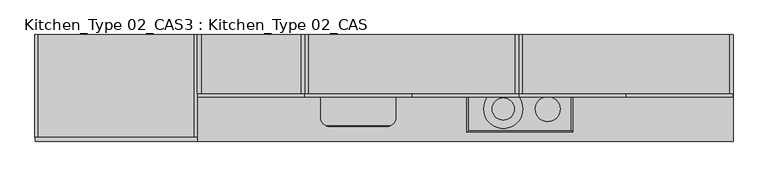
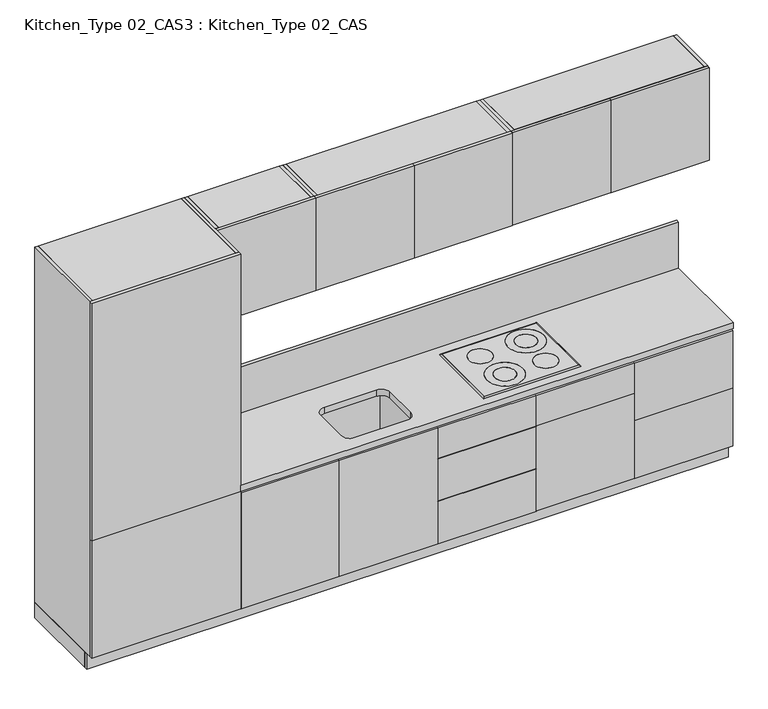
"""IFC4 building model written with IfcOpenShell, lengths in millimetres: furniture geometry, Kitchen_Type 02_CAS3 : Kitchen_Type 02_CAS."""

from ifc_helpers import new_model, si_unit, point, frame, frame_2d, origin, origin_with_axes, place, context, project, spatial, polyline, circle_curve, ellipse_curve, trimmed, segment, composite_curve, outline, extrude, source, transform, mapped, element, save
from ifc_brep_helpers import plane_surface, cylinder_surface, advanced_brep


def kitchen_type_02_cas3_kitchen_type_02_cas_05b7dcd0(model_context):
    return source(origin(), model_context, "Body", "SolidModel", [
        advanced_brep(
        [(3018.8951127, 480.560876, 908.0), (3026.8951127, 488.560876, 900.0), (2430.8951127, 488.560876, 900.0), (2438.8951127, 480.560876, 908.0), (3018.8951127, 480.560876, 900.0), (2438.8951127, 480.560876, 900.0), (2430.8951127, 22.560876, 900.0), (2438.8951127, 30.560876, 908.0), (2438.8951127, 30.560876, 900.0), (3026.8951127, 22.560876, 900.0), (3018.8951127, 30.560876, 908.0), (3018.8951127, 30.560876, 900.0)],
        [
            (0, 1, ellipse_curve(frame((3018.8951127, 480.560876, 900.0), z_axis=(-0.707106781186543, 0.7071067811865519, 0.0), x_axis=(0.7071067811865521, 0.707106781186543, 0.0)), 11.3137085, 8.0)),
            (1, 2),
            (2, 3, ellipse_curve(frame((2438.8951127, 480.560876, 900.0), z_axis=(0.7071067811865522, 0.7071067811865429, 0.0), x_axis=(0.7071067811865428, -0.7071067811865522, 0.0)), 11.3137085, 8.0)),
            (3, 0),
            (4, 0),
            (3, 5),
            (5, 4),
            (2, 6),
            (6, 7, ellipse_curve(frame((2438.8951127, 30.560876, 900.0), z_axis=(-0.7071067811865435, 0.7071067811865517, 0.0), x_axis=(0.7071067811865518, 0.7071067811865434, 0.0)), 11.3137085, 8.0)),
            (7, 3),
            (7, 8),
            (8, 5),
            (6, 9),
            (9, 10, ellipse_curve(frame((3018.8951127, 30.560876, 900.0), z_axis=(-0.7071067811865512, -0.7071067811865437, 0.0), x_axis=(-0.7071067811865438, 0.7071067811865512, 0.0)), 11.3137085, 8.0)),
            (10, 7),
            (10, 11),
            (11, 8),
            (1, 9),
            (11, 4),
            (0, 10),
        ],
        [
            cylinder_surface(frame((3018.8951127, 480.560876, 900.0), z_axis=(1.0, 0.0, 0.0), x_axis=(0.0, 1.0, 0.0)), 8.0),
            plane_surface(frame((3018.8951127, 480.560876, 908.0), z_axis=(0.0, -1.0, 0.0), x_axis=(-1.0, 0.0, 0.0))),
            cylinder_surface(frame((2438.8951127, 480.560876, 900.0), z_axis=(0.0, 1.0, 0.0), x_axis=(-1.0, 0.0, 0.0)), 8.0),
            plane_surface(frame((2438.8951127, 480.560876, 908.0), z_axis=(1.0, 0.0, 0.0), x_axis=(0.0, -1.0, 0.0))),
            cylinder_surface(frame((2438.8951127, 30.560876, 900.0), z_axis=(-1.0, 0.0, 0.0), x_axis=(0.0, -1.0, 0.0)), 8.0),
            plane_surface(frame((2438.8951127, 30.560876, 908.0), z_axis=(0.0, 1.0, 0.0), x_axis=(1.0, 0.0, 0.0))),
            plane_surface(frame((3018.8951127, 30.560876, 900.0), z_axis=(0.0, 0.0, -1.0), x_axis=(0.0, 1.0, 0.0))),
            cylinder_surface(frame((3018.8951127, 30.560876, 900.0), z_axis=(0.0, -1.0, 0.0), x_axis=(1.0, 0.0, 0.0)), 8.0),
            plane_surface(frame((3018.8951127, 30.560876, 908.0), z_axis=(-1.0, 0.0, 0.0), x_axis=(0.0, 1.0, 0.0))),
        ],
        [
            (0, [[1, 2, 3, 4]]),
            (1, [[5, -4, 6, 7]]),
            (2, [[-3, 8, 9, 10]]),
            (3, [[-6, -10, 11, 12]]),
            (4, [[-9, 13, 14, 15]]),
            (5, [[-11, -15, 16, 17]]),
            (6, [[18, -13, -8, -2], [-12, -17, 19, -7]]),
            (7, [[-14, -18, -1, 20]]),
            (8, [[-16, -20, -5, -19]]),
        ],
    ),
        extrude(outline(polyline([(2438.8951127, 30.560876), (2438.8951127, 480.560876), (3018.8951127, 480.560876), (3018.8951127, 30.560876), (2438.8951127, 30.560876)]), holes=[composite_curve([segment(trimmed(circle_curve(frame_2d((2886.3951127, 153.060876)), 70.0), [point((2956.3951127, 153.060876))], [point((2816.3951127, 153.060876))], True, "CARTESIAN"), True, "CONTINUOUS"), segment(trimmed(circle_curve(frame_2d((2886.3951127, 153.060876)), 70.0), [point((2816.3951127, 153.060876))], [point((2956.3951127, 153.060876))], True, "CARTESIAN"), True, "CONTINUOUS")], self_intersect=False), composite_curve([segment(trimmed(circle_curve(frame_2d((2886.3951127, 363.060876)), 110.0), [point((2996.3951127, 363.060876))], [point((2776.3951127, 363.060876))], True, "CARTESIAN"), True, "CONTINUOUS"), segment(trimmed(circle_curve(frame_2d((2886.3951127, 363.060876)), 110.0), [point((2776.3951127, 363.060876))], [point((2996.3951127, 363.060876))], True, "CARTESIAN"), True, "CONTINUOUS")], self_intersect=False), composite_curve([segment(trimmed(circle_curve(frame_2d((2636.3951127, 153.060876)), 110.0), [point((2746.3951127, 153.060876))], [point((2526.3951127, 153.060876))], True, "CARTESIAN"), True, "CONTINUOUS"), segment(trimmed(circle_curve(frame_2d((2636.3951127, 153.060876)), 110.0), [point((2526.3951127, 153.060876))], [point((2746.3951127, 153.060876))], True, "CARTESIAN"), True, "CONTINUOUS")], self_intersect=False), composite_curve([segment(trimmed(circle_curve(frame_2d((2606.3951127, 363.060876)), 70.0), [point((2676.3951127, 363.060876))], [point((2536.3951127, 363.060876))], True, "CARTESIAN"), True, "CONTINUOUS"), segment(trimmed(circle_curve(frame_2d((2606.3951127, 363.060876)), 70.0), [point((2536.3951127, 363.060876))], [point((2676.3951127, 363.060876))], True, "CARTESIAN"), True, "CONTINUOUS")], self_intersect=False)]), frame((0.0, 0.0, 900.0), z_axis=(0.0, 0.0, 1.0), x_axis=(1.0, 0.0, 0.0)), (0.0, 0.0, 1.0), 8.0),
        extrude(outline(composite_curve([segment(trimmed(circle_curve(frame_2d((2886.3951127, 363.060876)), 62.5), [point((2948.8951127, 363.060876))], [point((2823.8951127, 363.060876))], False, "CARTESIAN"), True, "CONTINUOUS"), segment(trimmed(circle_curve(frame_2d((2886.3951127, 363.060876)), 62.5), [point((2823.8951127, 363.060876))], [point((2948.8951127, 363.060876))], False, "CARTESIAN"), True, "CONTINUOUS")], self_intersect=False)), frame((0.0, 0.0, 900.0), z_axis=(0.0, 0.0, 1.0), x_axis=(1.0, 0.0, 0.0)), (0.0, 0.0, 1.0), 8.0),
        extrude(outline(composite_curve([segment(trimmed(circle_curve(frame_2d((2636.3951127, 153.060876)), 62.5), [point((2698.8951127, 153.060876))], [point((2573.8951127, 153.060876))], False, "CARTESIAN"), True, "CONTINUOUS"), segment(trimmed(circle_curve(frame_2d((2636.3951127, 153.060876)), 62.5), [point((2573.8951127, 153.060876))], [point((2698.8951127, 153.060876))], False, "CARTESIAN"), True, "CONTINUOUS")], self_intersect=False)), frame((0.0, 0.0, 900.0), z_axis=(0.0, 0.0, 1.0), x_axis=(1.0, 0.0, 0.0)), (0.0, 0.0, 1.0), 8.0),
        extrude(outline(composite_curve([segment(trimmed(circle_curve(frame_2d((2886.3951127, 153.060876)), 70.0), [point((2816.3951127, 153.060876))], [point((2956.3951127, 153.060876))], False, "CARTESIAN"), True, "CONTINUOUS"), segment(trimmed(circle_curve(frame_2d((2886.3951127, 153.060876)), 70.0), [point((2956.3951127, 153.060876))], [point((2816.3951127, 153.060876))], False, "CARTESIAN"), True, "CONTINUOUS")], self_intersect=False)), frame((0.0, 0.0, 894.0), z_axis=(0.0, 0.0, 1.0), x_axis=(1.0, 0.0, 0.0)), (0.0, 0.0, 1.0), 14.0),
        extrude(outline(composite_curve([segment(trimmed(circle_curve(frame_2d((2886.3951127, 363.060876)), 110.0), [point((2776.3951127, 363.060876))], [point((2996.3951127, 363.060876))], False, "CARTESIAN"), True, "CONTINUOUS"), segment(trimmed(circle_curve(frame_2d((2886.3951127, 363.060876)), 110.0), [point((2996.3951127, 363.060876))], [point((2776.3951127, 363.060876))], False, "CARTESIAN"), True, "CONTINUOUS")], self_intersect=False), holes=[composite_curve([segment(trimmed(circle_curve(frame_2d((2886.3951127, 363.060876)), 62.5), [point((2823.8951127, 363.060876))], [point((2948.8951127, 363.060876))], True, "CARTESIAN"), True, "CONTINUOUS"), segment(trimmed(circle_curve(frame_2d((2886.3951127, 363.060876)), 62.5), [point((2948.8951127, 363.060876))], [point((2823.8951127, 363.060876))], True, "CARTESIAN"), True, "CONTINUOUS")], self_intersect=False)]), frame((0.0, 0.0, 894.0), z_axis=(0.0, 0.0, 1.0), x_axis=(1.0, 0.0, 0.0)), (0.0, 0.0, 1.0), 14.0),
        extrude(outline(composite_curve([segment(trimmed(circle_curve(frame_2d((2636.3951127, 153.060876)), 110.0), [point((2526.3951127, 153.060876))], [point((2746.3951127, 153.060876))], False, "CARTESIAN"), True, "CONTINUOUS"), segment(trimmed(circle_curve(frame_2d((2636.3951127, 153.060876)), 110.0), [point((2746.3951127, 153.060876))], [point((2526.3951127, 153.060876))], False, "CARTESIAN"), True, "CONTINUOUS")], self_intersect=False), holes=[composite_curve([segment(trimmed(circle_curve(frame_2d((2636.3951127, 153.060876)), 62.5), [point((2573.8951127, 153.060876))], [point((2698.8951127, 153.060876))], True, "CARTESIAN"), True, "CONTINUOUS"), segment(trimmed(circle_curve(frame_2d((2636.3951127, 153.060876)), 62.5), [point((2698.8951127, 153.060876))], [point((2573.8951127, 153.060876))], True, "CARTESIAN"), True, "CONTINUOUS")], self_intersect=False)]), frame((0.0, 0.0, 894.0), z_axis=(0.0, 0.0, 1.0), x_axis=(1.0, 0.0, 0.0)), (0.0, 0.0, 1.0), 14.0),
        extrude(outline(composite_curve([segment(trimmed(circle_curve(frame_2d((2606.3951127, 363.060876)), 70.0), [point((2536.3951127, 363.060876))], [point((2676.3951127, 363.060876))], False, "CARTESIAN"), True, "CONTINUOUS"), segment(trimmed(circle_curve(frame_2d((2606.3951127, 363.060876)), 70.0), [point((2676.3951127, 363.060876))], [point((2536.3951127, 363.060876))], False, "CARTESIAN"), True, "CONTINUOUS")], self_intersect=False)), frame((0.0, 0.0, 894.0), z_axis=(0.0, 0.0, 1.0), x_axis=(1.0, 0.0, 0.0)), (0.0, 0.0, 1.0), 14.0),
        extrude(outline(polyline([(1517.0, 221.960876), (916.0, 221.960876), (916.0, 241.960876), (1517.0, 241.960876), (1517.0, 221.960876)])), frame((0.0, 0.0, 1800.0), z_axis=(0.0, 0.0, 1.0), x_axis=(1.0, 0.0, 0.0)), (0.0, 0.0, 1.0), 599.0),
        extrude(outline(polyline([(1498.0, 571.960876), (1518.0, 571.960876), (1518.0, 241.960876), (1498.0, 241.960876), (1498.0, 571.960876)])), frame((0.0, 0.0, 1800.0), z_axis=(0.0, 0.0, 1.0), x_axis=(1.0, 0.0, 0.0)), (0.0, 0.0, 1.0), 600.0),
        extrude(outline(polyline([(915.0, 571.960876), (935.0, 571.960876), (935.0, 241.960876), (915.0, 241.960876), (915.0, 571.960876)])), frame((0.0, 0.0, 1800.0), z_axis=(0.0, 0.0, 1.0), x_axis=(1.0, 0.0, 0.0)), (0.0, 0.0, 1.0), 600.0),
        extrude(outline(polyline([(1498.0, 551.960876), (935.0, 551.960876), (935.0, 571.960876), (1498.0, 571.960876), (1498.0, 551.960876)])), frame((0.0, 0.0, 1800.0), z_axis=(0.0, 0.0, 1.0), x_axis=(1.0, 0.0, 0.0)), (0.0, 0.0, 1.0), 580.0),
        extrude(outline(polyline([(1498.0, 551.960876), (1498.0, 241.960876), (935.0, 241.960876), (935.0, 551.960876), (1498.0, 551.960876)])), frame((0.0, 0.0, 1800.0), z_axis=(0.0, 0.0, 1.0), x_axis=(1.0, 0.0, 0.0)), (0.0, 0.0, 1.0), 20.0),
        extrude(outline(polyline([(1498.0, 571.960876), (1498.0, 241.960876), (935.0, 241.960876), (935.0, 571.960876), (1498.0, 571.960876)])), frame((0.0, 0.0, 2380.0), z_axis=(0.0, 0.0, 1.0), x_axis=(1.0, 0.0, 0.0)), (0.0, 0.0, 1.0), 20.0),
        extrude(outline(polyline([(1519.0, 221.960876), (1519.0, 241.960876), (2120.0, 241.960876), (2120.0, 221.960876), (1519.0, 221.960876)])), frame((0.0, 0.0, 1800.0), z_axis=(0.0, 0.0, 1.0), x_axis=(1.0, 0.0, 0.0)), (0.0, 0.0, 1.0), 599.0),
        extrude(outline(polyline([(2723.0, 221.960876), (2122.0, 221.960876), (2122.0, 241.960876), (2723.0, 241.960876), (2723.0, 221.960876)])), frame((0.0, 0.0, 1800.0), z_axis=(0.0, 0.0, 1.0), x_axis=(1.0, 0.0, 0.0)), (0.0, 0.0, 1.0), 599.0),
        extrude(outline(polyline([(2704.0, 571.960876), (2724.0, 571.960876), (2724.0, 241.960876), (2704.0, 241.960876), (2704.0, 571.960876)])), frame((0.0, 0.0, 1800.0), z_axis=(0.0, 0.0, 1.0), x_axis=(1.0, 0.0, 0.0)), (0.0, 0.0, 1.0), 600.0),
        extrude(outline(polyline([(1518.0, 571.960876), (1538.0, 571.960876), (1538.0, 241.960876), (1518.0, 241.960876), (1518.0, 571.960876)])), frame((0.0, 0.0, 1800.0), z_axis=(0.0, 0.0, 1.0), x_axis=(1.0, 0.0, 0.0)), (0.0, 0.0, 1.0), 600.0),
        extrude(outline(polyline([(2704.0, 551.960876), (1538.0, 551.960876), (1538.0, 571.960876), (2704.0, 571.960876), (2704.0, 551.960876)])), frame((0.0, 0.0, 1800.0), z_axis=(0.0, 0.0, 1.0), x_axis=(1.0, 0.0, 0.0)), (0.0, 0.0, 1.0), 580.0),
        extrude(outline(polyline([(2704.0, 551.960876), (2704.0, 241.960876), (1538.0, 241.960876), (1538.0, 551.960876), (2704.0, 551.960876)])), frame((0.0, 0.0, 1800.0), z_axis=(0.0, 0.0, 1.0), x_axis=(1.0, 0.0, 0.0)), (0.0, 0.0, 1.0), 20.0),
        extrude(outline(polyline([(2704.0, 571.960876), (2704.0, 241.960876), (1538.0, 241.960876), (1538.0, 571.960876), (2704.0, 571.960876)])), frame((0.0, 0.0, 2380.0), z_axis=(0.0, 0.0, 1.0), x_axis=(1.0, 0.0, 0.0)), (0.0, 0.0, 1.0), 20.0),
        extrude(outline(polyline([(2754.0, 551.960876), (3297.0, 551.960876), (3297.0, -8.039124), (2754.0, -8.039124), (2754.0, 551.960876)])), frame((0.0, 0.0, 390.0), z_axis=(0.0, 0.0, 1.0), x_axis=(1.0, 0.0, 0.0)), (0.0, 0.0, 1.0), 20.0),
        extrude(outline(polyline([(2725.0, -28.039124), (2725.0, -8.039124), (3326.0, -8.039124), (3326.0, -28.039124), (2725.0, -28.039124)])), frame((0.0, 0.0, 100.0), z_axis=(0.0, 0.0, 1.0), x_axis=(1.0, 0.0, 0.0)), (0.0, 0.0, 1.0), 550.0),
        extrude(outline(polyline([(2725.0, -28.039124), (2725.0, -8.039124), (3326.0, -8.039124), (3326.0, -28.039124), (2725.0, -28.039124)])), frame((0.0, 0.0, 650.0), z_axis=(0.0, 0.0, 1.0), x_axis=(1.0, 0.0, 0.0)), (0.0, 0.0, 1.0), 200.0),
        extrude(outline(polyline([(3327.0, 41.960876), (2724.0, 41.960876), (2724.0, 571.960876), (2744.0, 571.960876), (2744.0, 61.960876), (3307.0, 61.960876), (3307.0, 571.960876), (3327.0, 571.960876), (3327.0, 41.960876)])), origin_with_axes(), (0.0, 0.0, 1.0), 100.0),
        extrude(outline(polyline([(2744.0, 571.960876), (2744.0, -8.039124), (2724.0, -8.039124), (2724.0, 571.960876), (2744.0, 571.960876)])), frame((0.0, 0.0, 100.0), z_axis=(0.0, 0.0, 1.0), x_axis=(1.0, 0.0, 0.0)), (0.0, 0.0, 1.0), 760.0),
        extrude(outline(polyline([(3327.0, 571.960876), (3327.0, -8.039124), (3307.0, -8.039124), (3307.0, 571.960876), (3327.0, 571.960876)])), frame((0.0, 0.0, 100.0), z_axis=(0.0, 0.0, 1.0), x_axis=(1.0, 0.0, 0.0)), (0.0, 0.0, 1.0), 760.0),
        extrude(outline(polyline([(2744.0, 551.960876), (2744.0, 571.960876), (3307.0, 571.960876), (3307.0, 551.960876), (2744.0, 551.960876)])), frame((0.0, 0.0, 100.0), z_axis=(0.0, 0.0, 1.0), x_axis=(1.0, 0.0, 0.0)), (0.0, 0.0, 1.0), 740.0),
        extrude(outline(polyline([(2744.0, 551.960876), (3307.0, 551.960876), (3307.0, -8.039124), (2744.0, -8.039124), (2744.0, 551.960876)])), frame((0.0, 0.0, 100.0), z_axis=(0.0, 0.0, 1.0), x_axis=(1.0, 0.0, 0.0)), (0.0, 0.0, 1.0), 20.0),
        extrude(outline(polyline([(2744.0, 571.960876), (3307.0, 571.960876), (3307.0, 506.960876), (2744.0, 506.960876), (2744.0, 571.960876)])), frame((0.0, 0.0, 840.0), z_axis=(0.0, 0.0, 1.0), x_axis=(1.0, 0.0, 0.0)), (0.0, 0.0, 1.0), 20.0),
        extrude(outline(polyline([(3307.0, 56.960876), (3307.0, -8.039124), (2744.0, -8.039124), (2744.0, 56.960876), (3307.0, 56.960876)])), frame((0.0, 0.0, 840.0), z_axis=(0.0, 0.0, 1.0), x_axis=(1.0, 0.0, 0.0)), (0.0, 0.0, 1.0), 20.0),
        extrude(outline(polyline([(2725.0, 221.960876), (2725.0, 241.960876), (3326.0, 241.960876), (3326.0, 221.960876), (2725.0, 221.960876)])), frame((0.0, 0.0, 1800.0), z_axis=(0.0, 0.0, 1.0), x_axis=(1.0, 0.0, 0.0)), (0.0, 0.0, 1.0), 599.0),
        extrude(outline(polyline([(3929.0, 221.960876), (3328.0, 221.960876), (3328.0, 241.960876), (3929.0, 241.960876), (3929.0, 221.960876)])), frame((0.0, 0.0, 1800.0), z_axis=(0.0, 0.0, 1.0), x_axis=(1.0, 0.0, 0.0)), (0.0, 0.0, 1.0), 599.0),
        extrude(outline(polyline([(3910.0, 571.960876), (3930.0, 571.960876), (3930.0, 241.960876), (3910.0, 241.960876), (3910.0, 571.960876)])), frame((0.0, 0.0, 1800.0), z_axis=(0.0, 0.0, 1.0), x_axis=(1.0, 0.0, 0.0)), (0.0, 0.0, 1.0), 600.0),
        extrude(outline(polyline([(2724.0, 571.960876), (2744.0, 571.960876), (2744.0, 241.960876), (2724.0, 241.960876), (2724.0, 571.960876)])), frame((0.0, 0.0, 1800.0), z_axis=(0.0, 0.0, 1.0), x_axis=(1.0, 0.0, 0.0)), (0.0, 0.0, 1.0), 600.0),
        extrude(outline(polyline([(3910.0, 551.960876), (2744.0, 551.960876), (2744.0, 571.960876), (3910.0, 571.960876), (3910.0, 551.960876)])), frame((0.0, 0.0, 1800.0), z_axis=(0.0, 0.0, 1.0), x_axis=(1.0, 0.0, 0.0)), (0.0, 0.0, 1.0), 580.0),
        extrude(outline(polyline([(3910.0, 551.960876), (3910.0, 241.960876), (2744.0, 241.960876), (2744.0, 551.960876), (3910.0, 551.960876)])), frame((0.0, 0.0, 1800.0), z_axis=(0.0, 0.0, 1.0), x_axis=(1.0, 0.0, 0.0)), (0.0, 0.0, 1.0), 20.0),
        extrude(outline(polyline([(3910.0, 571.960876), (3910.0, 241.960876), (2744.0, 241.960876), (2744.0, 571.960876), (3910.0, 571.960876)])), frame((0.0, 0.0, 2380.0), z_axis=(0.0, 0.0, 1.0), x_axis=(1.0, 0.0, 0.0)), (0.0, 0.0, 1.0), 20.0),
        extrude(outline(polyline([(3930.0, 551.960876), (915.0, 551.960876), (915.0, 571.960876), (3930.0, 571.960876), (3930.0, 551.960876)])), frame((0.0, 0.0, 900.0), z_axis=(0.0, 0.0, 1.0), x_axis=(1.0, 0.0, 0.0)), (0.0, 0.0, 1.0), 300.0),
        extrude(outline(polyline([(3930.0, 21.960876), (0.0, 21.960876), (0.0, 41.960876), (3930.0, 41.960876), (3930.0, 21.960876)])), origin_with_axes(), (0.0, 0.0, 1.0), 100.0),
        extrude(outline(polyline([(3930.0, 571.960876), (3930.0, -28.039124), (915.0, -28.039124), (915.0, 571.960876), (3930.0, 571.960876)]), holes=[composite_curve([segment(trimmed(circle_curve(frame_2d((1658.4, 325.1014576)), 50.8), [point((1658.4, 375.9014576))], [point((1607.6, 325.1014576))], True, "CARTESIAN"), True, "CONTINUOUS"), segment(polyline([(1607.6, 325.1014576), (1607.6, 104.7303748)]), True, "CONTINUOUS"), segment(trimmed(circle_curve(frame_2d((1658.4, 104.7303748)), 50.8), [point((1607.6, 104.7303748))], [point((1658.4, 53.9303748))], True, "CARTESIAN"), True, "CONTINUOUS"), segment(polyline([(1658.4, 53.9303748), (1980.6, 53.9303748)]), True, "CONTINUOUS"), segment(trimmed(circle_curve(frame_2d((1980.6, 104.7303748)), 50.8), [point((1980.6, 53.9303748))], [point((2031.4, 104.7303748))], True, "CARTESIAN"), True, "CONTINUOUS"), segment(polyline([(2031.4, 104.7303748), (2031.4, 325.1014576)]), True, "CONTINUOUS"), segment(trimmed(circle_curve(frame_2d((1980.6, 325.1014576)), 50.8), [point((2031.4, 325.1014576))], [point((1980.6, 375.9014576))], True, "CARTESIAN"), True, "CONTINUOUS"), segment(polyline([(1980.6, 375.9014576), (1658.4, 375.9014576)]), True, "CONTINUOUS")], self_intersect=False)]), frame((0.0, 0.0, 860.0), z_axis=(0.0, 0.0, 1.0), x_axis=(1.0, 0.0, 0.0)), (0.0, 0.0, 1.0), 40.0),
        extrude(outline(polyline([(2120.0, -28.039124), (1519.0, -28.039124), (1519.0, -8.039124), (2120.0, -8.039124), (2120.0, -28.039124)])), frame((0.0, 0.0, 100.0), z_axis=(0.0, 0.0, 1.0), x_axis=(1.0, 0.0, 0.0)), (0.0, 0.0, 1.0), 750.0),
        extrude(outline(polyline([(1518.0, 41.960876), (1518.0, 571.960876), (1538.0, 571.960876), (1538.0, 61.960876), (2101.0, 61.960876), (2101.0, 571.960876), (2121.0, 571.960876), (2121.0, 41.960876), (1518.0, 41.960876)])), origin_with_axes(), (0.0, 0.0, 1.0), 100.0),
        extrude(outline(polyline([(2101.0, 571.960876), (2121.0, 571.960876), (2121.0, -8.039124), (2101.0, -8.039124), (2101.0, 571.960876)])), frame((0.0, 0.0, 100.0), z_axis=(0.0, 0.0, 1.0), x_axis=(1.0, 0.0, 0.0)), (0.0, 0.0, 1.0), 760.0),
        extrude(outline(polyline([(1518.0, 571.960876), (1538.0, 571.960876), (1538.0, -8.039124), (1518.0, -8.039124), (1518.0, 571.960876)])), frame((0.0, 0.0, 100.0), z_axis=(0.0, 0.0, 1.0), x_axis=(1.0, 0.0, 0.0)), (0.0, 0.0, 1.0), 760.0),
        extrude(outline(polyline([(2101.0, 551.960876), (1538.0, 551.960876), (1538.0, 571.960876), (2101.0, 571.960876), (2101.0, 551.960876)])), frame((0.0, 0.0, 100.0), z_axis=(0.0, 0.0, 1.0), x_axis=(1.0, 0.0, 0.0)), (0.0, 0.0, 1.0), 740.0),
        extrude(outline(polyline([(2101.0, 551.960876), (2101.0, -8.039124), (1538.0, -8.039124), (1538.0, 551.960876), (2101.0, 551.960876)])), frame((0.0, 0.0, 100.0), z_axis=(0.0, 0.0, 1.0), x_axis=(1.0, 0.0, 0.0)), (0.0, 0.0, 1.0), 20.0),
        extrude(outline(polyline([(2101.0, 571.960876), (2101.0, 506.960876), (1538.0, 506.960876), (1538.0, 571.960876), (2101.0, 571.960876)])), frame((0.0, 0.0, 840.0), z_axis=(0.0, 0.0, 1.0), x_axis=(1.0, 0.0, 0.0)), (0.0, 0.0, 1.0), 20.0),
        extrude(outline(polyline([(1538.0, 56.960876), (2101.0, 56.960876), (2101.0, -8.039124), (1538.0, -8.039124), (1538.0, 56.960876)])), frame((0.0, 0.0, 840.0), z_axis=(0.0, 0.0, 1.0), x_axis=(1.0, 0.0, 0.0)), (0.0, 0.0, 1.0), 20.0),
        extrude(outline(polyline([(1517.0, -28.039124), (916.0, -28.039124), (916.0, -8.039124), (1517.0, -8.039124), (1517.0, -28.039124)])), frame((0.0, 0.0, 100.0), z_axis=(0.0, 0.0, 1.0), x_axis=(1.0, 0.0, 0.0)), (0.0, 0.0, 1.0), 750.0),
        extrude(outline(polyline([(915.0, 41.960876), (915.0, 571.960876), (935.0, 571.960876), (935.0, 61.960876), (1498.0, 61.960876), (1498.0, 571.960876), (1518.0, 571.960876), (1518.0, 41.960876), (915.0, 41.960876)])), origin_with_axes(), (0.0, 0.0, 1.0), 100.0),
        extrude(outline(polyline([(1498.0, 551.960876), (1498.0, -8.039124), (935.0, -8.039124), (935.0, 551.960876), (1498.0, 551.960876)])), frame((0.0, 0.0, 100.0), z_axis=(0.0, 0.0, 1.0), x_axis=(1.0, 0.0, 0.0)), (0.0, 0.0, 1.0), 20.0),
        extrude(outline(polyline([(1498.0, 571.960876), (1498.0, 506.960876), (935.0, 506.960876), (935.0, 571.960876), (1498.0, 571.960876)])), frame((0.0, 0.0, 840.0), z_axis=(0.0, 0.0, 1.0), x_axis=(1.0, 0.0, 0.0)), (0.0, 0.0, 1.0), 20.0),
        extrude(outline(polyline([(935.0, 56.960876), (1498.0, 56.960876), (1498.0, -8.039124), (935.0, -8.039124), (935.0, 56.960876)])), frame((0.0, 0.0, 840.0), z_axis=(0.0, 0.0, 1.0), x_axis=(1.0, 0.0, 0.0)), (0.0, 0.0, 1.0), 20.0),
        extrude(outline(polyline([(1498.0, 571.960876), (1518.0, 571.960876), (1518.0, -8.039124), (1498.0, -8.039124), (1498.0, 571.960876)])), frame((0.0, 0.0, 100.0), z_axis=(0.0, 0.0, 1.0), x_axis=(1.0, 0.0, 0.0)), (0.0, 0.0, 1.0), 760.0),
        extrude(outline(polyline([(915.0, 571.960876), (935.0, 571.960876), (935.0, -8.039124), (915.0, -8.039124), (915.0, 571.960876)])), frame((0.0, 0.0, 100.0), z_axis=(0.0, 0.0, 1.0), x_axis=(1.0, 0.0, 0.0)), (0.0, 0.0, 1.0), 760.0),
        extrude(outline(polyline([(1498.0, 551.960876), (935.0, 551.960876), (935.0, 571.960876), (1498.0, 571.960876), (1498.0, 551.960876)])), frame((0.0, 0.0, 100.0), z_axis=(0.0, 0.0, 1.0), x_axis=(1.0, 0.0, 0.0)), (0.0, 0.0, 1.0), 740.0),
        extrude(outline(polyline([(30.0, 551.960876), (885.0, 551.960876), (885.0, -8.039124), (30.0, -8.039124), (30.0, 551.960876)])), frame((0.0, 0.0, 1990.0), z_axis=(0.0, 0.0, 1.0), x_axis=(1.0, 0.0, 0.0)), (0.0, 0.0, 1.0), 20.0),
        extrude(outline(polyline([(30.0, 551.960876), (885.0, 551.960876), (885.0, -8.039124), (30.0, -8.039124), (30.0, 551.960876)])), frame((0.0, 0.0, 1690.0), z_axis=(0.0, 0.0, 1.0), x_axis=(1.0, 0.0, 0.0)), (0.0, 0.0, 1.0), 20.0),
        extrude(outline(polyline([(30.0, 551.960876), (885.0, 551.960876), (885.0, -8.039124), (30.0, -8.039124), (30.0, 551.960876)])), frame((0.0, 0.0, 1390.0), z_axis=(0.0, 0.0, 1.0), x_axis=(1.0, 0.0, 0.0)), (0.0, 0.0, 1.0), 20.0),
        extrude(outline(polyline([(30.0, 551.960876), (885.0, 551.960876), (885.0, -8.039124), (30.0, -8.039124), (30.0, 551.960876)])), frame((0.0, 0.0, 1090.0), z_axis=(0.0, 0.0, 1.0), x_axis=(1.0, 0.0, 0.0)), (0.0, 0.0, 1.0), 20.0),
        extrude(outline(polyline([(20.0, 551.960876), (895.0, 551.960876), (895.0, -8.039124), (20.0, -8.039124), (20.0, 551.960876)])), frame((0.0, 0.0, 790.0), z_axis=(0.0, 0.0, 1.0), x_axis=(1.0, 0.0, 0.0)), (0.0, 0.0, 1.0), 20.0),
        extrude(outline(polyline([(1.0, -28.039124), (1.0, -8.039124), (914.0, -8.039124), (914.0, -28.039124), (1.0, -28.039124)])), frame((0.0, 0.0, 860.0), z_axis=(0.0, 0.0, 1.0), x_axis=(1.0, 0.0, 0.0)), (0.0, 0.0, 1.0), 1540.0),
        extrude(outline(polyline([(1.0, -28.039124), (1.0, -8.039124), (914.0, -8.039124), (914.0, -28.039124), (1.0, -28.039124)])), frame((0.0, 0.0, 100.0), z_axis=(0.0, 0.0, 1.0), x_axis=(1.0, 0.0, 0.0)), (0.0, 0.0, 1.0), 760.0),
        extrude(outline(polyline([(915.0, 41.960876), (0.0, 41.960876), (0.0, 571.960876), (20.0, 571.960876), (20.0, 61.960876), (895.0, 61.960876), (895.0, 571.960876), (915.0, 571.960876), (915.0, 41.960876)])), origin_with_axes(), (0.0, 0.0, 1.0), 100.0),
        extrude(outline(polyline([(20.0, 551.960876), (895.0, 551.960876), (895.0, -8.039124), (20.0, -8.039124), (20.0, 551.960876)])), frame((0.0, 0.0, 100.0), z_axis=(0.0, 0.0, 1.0), x_axis=(1.0, 0.0, 0.0)), (0.0, 0.0, 1.0), 20.0),
        extrude(outline(polyline([(20.0, 571.960876), (895.0, 571.960876), (895.0, -8.039124), (20.0, -8.039124), (20.0, 571.960876)])), frame((0.0, 0.0, 2380.0), z_axis=(0.0, 0.0, 1.0), x_axis=(1.0, 0.0, 0.0)), (0.0, 0.0, 1.0), 20.0),
        extrude(outline(polyline([(20.0, 571.960876), (20.0, -8.039124), (0.0, -8.039124), (0.0, 571.960876), (20.0, 571.960876)])), frame((0.0, 0.0, 100.0), z_axis=(0.0, 0.0, 1.0), x_axis=(1.0, 0.0, 0.0)), (0.0, 0.0, 1.0), 2300.0),
        extrude(outline(polyline([(915.0, 571.960876), (915.0, -8.039124), (895.0, -8.039124), (895.0, 571.960876), (915.0, 571.960876)])), frame((0.0, 0.0, 100.0), z_axis=(0.0, 0.0, 1.0), x_axis=(1.0, 0.0, 0.0)), (0.0, 0.0, 1.0), 2300.0),
        extrude(outline(polyline([(20.0, 551.960876), (20.0, 571.960876), (895.0, 571.960876), (895.0, 551.960876), (20.0, 551.960876)])), frame((0.0, 0.0, 100.0), z_axis=(0.0, 0.0, 1.0), x_axis=(1.0, 0.0, 0.0)), (0.0, 0.0, 1.0), 2280.0),
        extrude(outline(polyline([(3929.0, -28.039124), (3328.0, -28.039124), (3328.0, -8.039124), (3929.0, -8.039124), (3929.0, -28.039124)])), frame((0.0, 0.0, 475.5), z_axis=(0.0, 0.0, 1.0), x_axis=(1.0, 0.0, 0.0)), (0.0, 0.0, 1.0), 374.5),
        extrude(outline(polyline([(3929.0, -28.039124), (3328.0, -28.039124), (3328.0, -8.039124), (3929.0, -8.039124), (3929.0, -28.039124)])), frame((0.0, 0.0, 100.0), z_axis=(0.0, 0.0, 1.0), x_axis=(1.0, 0.0, 0.0)), (0.0, 0.0, 1.0), 374.5),
        extrude(outline(polyline([(3327.0, 41.960876), (3327.0, 571.960876), (3347.0, 571.960876), (3347.0, 61.960876), (3910.0, 61.960876), (3910.0, 571.960876), (3930.0, 571.960876), (3930.0, 41.960876), (3327.0, 41.960876)])), origin_with_axes(), (0.0, 0.0, 1.0), 100.0),
        extrude(outline(polyline([(3910.0, 571.960876), (3930.0, 571.960876), (3930.0, -8.039124), (3910.0, -8.039124), (3910.0, 571.960876)])), frame((0.0, 0.0, 100.0), z_axis=(0.0, 0.0, 1.0), x_axis=(1.0, 0.0, 0.0)), (0.0, 0.0, 1.0), 760.0),
        extrude(outline(polyline([(3327.0, 571.960876), (3347.0, 571.960876), (3347.0, -8.039124), (3327.0, -8.039124), (3327.0, 571.960876)])), frame((0.0, 0.0, 100.0), z_axis=(0.0, 0.0, 1.0), x_axis=(1.0, 0.0, 0.0)), (0.0, 0.0, 1.0), 760.0),
        extrude(outline(polyline([(3910.0, 551.960876), (3347.0, 551.960876), (3347.0, 571.960876), (3910.0, 571.960876), (3910.0, 551.960876)])), frame((0.0, 0.0, 100.0), z_axis=(0.0, 0.0, 1.0), x_axis=(1.0, 0.0, 0.0)), (0.0, 0.0, 1.0), 740.0),
        extrude(outline(polyline([(3910.0, 551.960876), (3910.0, -8.039124), (3347.0, -8.039124), (3347.0, 551.960876), (3910.0, 551.960876)])), frame((0.0, 0.0, 100.0), z_axis=(0.0, 0.0, 1.0), x_axis=(1.0, 0.0, 0.0)), (0.0, 0.0, 1.0), 20.0),
        extrude(outline(polyline([(3910.0, 571.960876), (3910.0, 506.960876), (3347.0, 506.960876), (3347.0, 571.960876), (3910.0, 571.960876)])), frame((0.0, 0.0, 840.0), z_axis=(0.0, 0.0, 1.0), x_axis=(1.0, 0.0, 0.0)), (0.0, 0.0, 1.0), 20.0),
        extrude(outline(polyline([(3347.0, 56.960876), (3910.0, 56.960876), (3910.0, -8.039124), (3347.0, -8.039124), (3347.0, 56.960876)])), frame((0.0, 0.0, 840.0), z_axis=(0.0, 0.0, 1.0), x_axis=(1.0, 0.0, 0.0)), (0.0, 0.0, 1.0), 20.0),
        extrude(outline(polyline([(2723.0, -28.039124), (2122.0, -28.039124), (2122.0, -8.039124), (2723.0, -8.039124), (2723.0, -28.039124)])), frame((0.0, 0.0, 651.0), z_axis=(0.0, 0.0, 1.0), x_axis=(1.0, 0.0, 0.0)), (0.0, 0.0, 1.0), 199.0),
        extrude(outline(polyline([(2723.0, -28.039124), (2122.0, -28.039124), (2122.0, -8.039124), (2723.0, -8.039124), (2723.0, -28.039124)])), frame((0.0, 0.0, 375.5), z_axis=(0.0, 0.0, 1.0), x_axis=(1.0, 0.0, 0.0)), (0.0, 0.0, 1.0), 274.5),
        extrude(outline(polyline([(2723.0, -28.039124), (2122.0, -28.039124), (2122.0, -8.039124), (2723.0, -8.039124), (2723.0, -28.039124)])), frame((0.0, 0.0, 100.0), z_axis=(0.0, 0.0, 1.0), x_axis=(1.0, 0.0, 0.0)), (0.0, 0.0, 1.0), 274.5),
        extrude(outline(polyline([(2121.0, 41.960876), (2121.0, 571.960876), (2141.0, 571.960876), (2141.0, 61.960876), (2704.0, 61.960876), (2704.0, 571.960876), (2724.0, 571.960876), (2724.0, 41.960876), (2121.0, 41.960876)])), origin_with_axes(), (0.0, 0.0, 1.0), 100.0),
        extrude(outline(polyline([(2704.0, 571.960876), (2724.0, 571.960876), (2724.0, -8.039124), (2704.0, -8.039124), (2704.0, 571.960876)])), frame((0.0, 0.0, 100.0), z_axis=(0.0, 0.0, 1.0), x_axis=(1.0, 0.0, 0.0)), (0.0, 0.0, 1.0), 760.0),
        extrude(outline(polyline([(2121.0, 571.960876), (2141.0, 571.960876), (2141.0, -8.039124), (2121.0, -8.039124), (2121.0, 571.960876)])), frame((0.0, 0.0, 100.0), z_axis=(0.0, 0.0, 1.0), x_axis=(1.0, 0.0, 0.0)), (0.0, 0.0, 1.0), 760.0),
        extrude(outline(polyline([(2704.0, 551.960876), (2141.0, 551.960876), (2141.0, 571.960876), (2704.0, 571.960876), (2704.0, 551.960876)])), frame((0.0, 0.0, 100.0), z_axis=(0.0, 0.0, 1.0), x_axis=(1.0, 0.0, 0.0)), (0.0, 0.0, 1.0), 740.0),
        extrude(outline(polyline([(2704.0, 551.960876), (2704.0, -8.039124), (2141.0, -8.039124), (2141.0, 551.960876), (2704.0, 551.960876)])), frame((0.0, 0.0, 100.0), z_axis=(0.0, 0.0, 1.0), x_axis=(1.0, 0.0, 0.0)), (0.0, 0.0, 1.0), 20.0),
        extrude(outline(polyline([(2704.0, 571.960876), (2704.0, 506.960876), (2141.0, 506.960876), (2141.0, 571.960876), (2704.0, 571.960876)])), frame((0.0, 0.0, 840.0), z_axis=(0.0, 0.0, 1.0), x_axis=(1.0, 0.0, 0.0)), (0.0, 0.0, 1.0), 20.0),
        extrude(outline(polyline([(2141.0, 56.960876), (2704.0, 56.960876), (2704.0, -8.039124), (2141.0, -8.039124), (2141.0, 56.960876)])), frame((0.0, 0.0, 840.0), z_axis=(0.0, 0.0, 1.0), x_axis=(1.0, 0.0, 0.0)), (0.0, 0.0, 1.0), 20.0),
    ])


if __name__ == "__main__":
    model = new_model("IFC4")
    model_context = context("Model", 3, world=origin())
    ifc_project = project(units=[si_unit("LENGTHUNIT", "METRE", prefix="MILLI")], contexts=[model_context])
    site = spatial("IfcSite", under=ifc_project)
    building = spatial("IfcBuilding", under=site)
    placement = place(None, origin())
    kitchen_type_02_cas3_kitchen_type_02_cas_shape = kitchen_type_02_cas3_kitchen_type_02_cas_05b7dcd0(model_context)
    element("IfcFurniture", 1, ObjectType="Kitchen_Type 02_CAS3 : Kitchen_Type 02_CAS", at=placement, inside=building, context=model_context, shape_type="MappedRepresentation", body=[
        mapped(kitchen_type_02_cas3_kitchen_type_02_cas_shape, transform((0.0, 0.0, 0.0), x_axis=(1.0, 0.0, 0.0), y_axis=(0.0, 1.0, 0.0), z_axis=(0.0, 0.0, 1.0))),
    ])
    save(model, "model.ifc")
